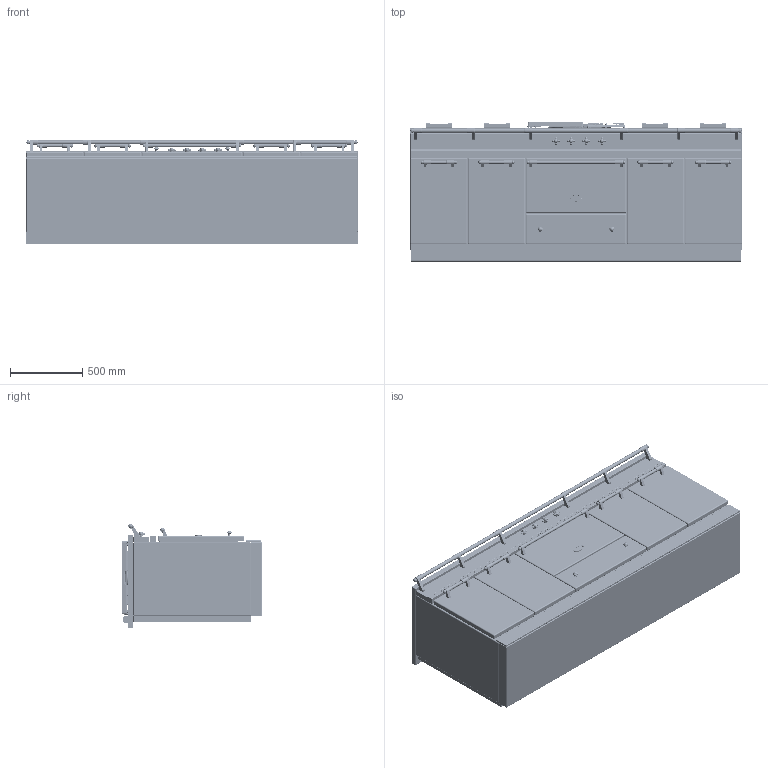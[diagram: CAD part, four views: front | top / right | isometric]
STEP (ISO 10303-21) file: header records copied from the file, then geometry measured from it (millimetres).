
FILE_DESCRIPTION((''),'2;1');
FILE_NAME('LCF2331_ASM','2021-12-08T09:15:26',('r.avril'),(''),'CREO PARAMETRIC BY PTC INC, 2017260','CREO PARAMETRIC BY PTC INC, 2017260','');
FILE_SCHEMA(('AP203_CONFIGURATION_CONTROLLED_3D_DESIGN_OF_MECHANICAL_PARTS_AND_ASSEMBLIES_MIM_LF { 1 0 10303 403 2 1 2 }'));
Products named in the file (29): BASE_EXPORT_FONTENAY_LG2331; 65650003; 65650004; 65650006; 65650007; 6531940; 6531941; 6531943; 65049009; 65650001; 6538399; 1931942; 65080022_AF0; 6531942_ASM; BASE_EXPORT_FONTENAY_LG2331_ASM; TABLE_2300_CLASSIQUE_3_FEUX; 5KW; 1_5KW; 3KW; 6537023; 65149005; 90000565_ASM; 65062008; 65062012; 90000549_ASM; CHEMINEE_2020_LG371_EXPORT_STEP; CHEMINEE_2020_LG182_EXPORT_STEP; TABLE_2300_TRADITION_ASM; LCF2331_ASM
Assembly tree (52 placements, depth 4):
  LCF2331_ASM
    BASE_EXPORT_FONTENAY_LG2331_ASM
      BASE_EXPORT_FONTENAY_LG2331
      65650003
      65650004
      65650006  x2
      65650007  x2
      6531940  x5
      6531941  x5
      6531943  x2
      65049009
      65650001
      6531942_ASM  x4
        6538399
        1931942
        65080022_AF0
    TABLE_2300_TRADITION_ASM
      TABLE_2300_CLASSIQUE_3_FEUX
      5KW
      1_5KW
      3KW
      90000565_ASM
        6537023
        65149005  x4
      90000549_ASM
        65062008
        65062012
        65149005  x4
      CHEMINEE_2020_LG371_EXPORT_STEP
      CHEMINEE_2020_LG182_EXPORT_STEP  x4
Bounding box: 2305 x 967 x 724 mm (x, y, z)
Volume: 846599353.1 mm3; surface area: 19623324.1 mm2
Topology: 63 solids, 81 shells, 8528 faces, 22256 edges, 13927 vertices
Faces by surface type: plane 4085, cylinder 2679, bspline 690, torus 408, sphere 284, cone 224, extrusion 134, revolution 24
Entity records: 250344 total; most frequent: CARTESIAN_POINT 64971, ORIENTED_EDGE 31416, DIRECTION 29486, EDGE_CURVE 15722, VECTOR 10238, LINE 10188, VERTEX_POINT 9836, PRESENTATION_STYLE_ASSIGNMENT 9599
